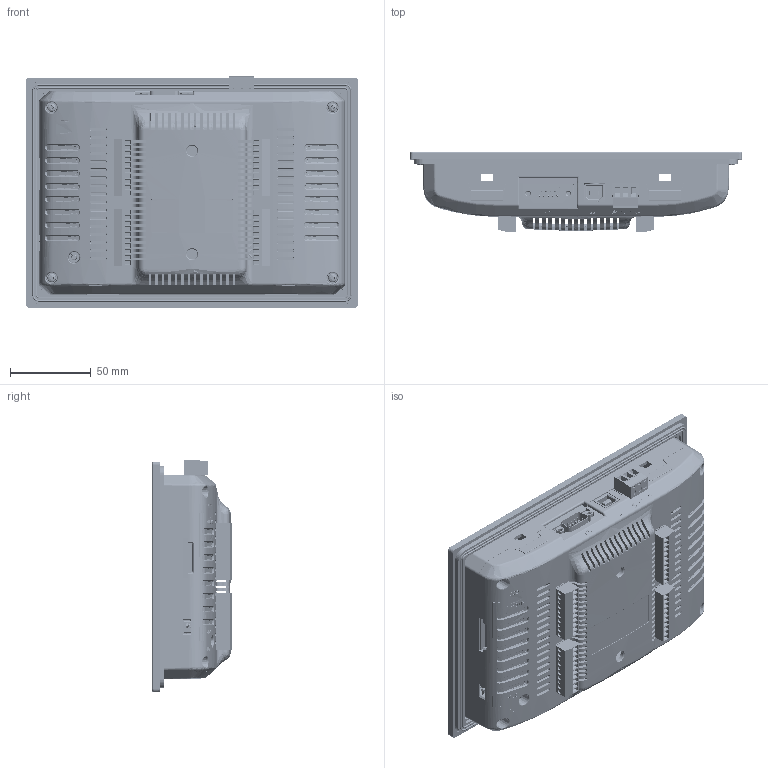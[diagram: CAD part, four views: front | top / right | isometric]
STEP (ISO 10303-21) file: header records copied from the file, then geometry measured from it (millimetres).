
FILE_DESCRIPTION((''),'2;1');
FILE_NAME('TP70P-16TP1R','2015-06-29T',('ELVIS.CHIEN'),(''),'PRO/ENGINEER BY PARAMETRIC TECHNOLOGY CORPORATION, 2012130','PRO/ENGINEER BY PARAMETRIC TECHNOLOGY CORPORATION, 2012130','');
FILE_SCHEMA(('CONFIG_CONTROL_DESIGN'));
Products named in the file (1): TP70P-16TP1R
Bounding box: 205.6 x 49.1 x 143.6 mm (x, y, z)
Volume: 271314.8 mm3; surface area: 320177.2 mm2
Topology: 4 solids, 18 shells, 7441 faces, 20422 edges, 13138 vertices
Faces by surface type: plane 4752, cylinder 1543, bspline 461, extrusion 355, cone 196, torus 116, sphere 18
Entity records: 282323 total; most frequent: CARTESIAN_POINT 98773, ORIENTED_EDGE 40786, DIRECTION 33715, EDGE_CURVE 20404, VECTOR 13977, LINE 13622, VERTEX_POINT 13138, AXIS2_PLACEMENT_3D 9869
